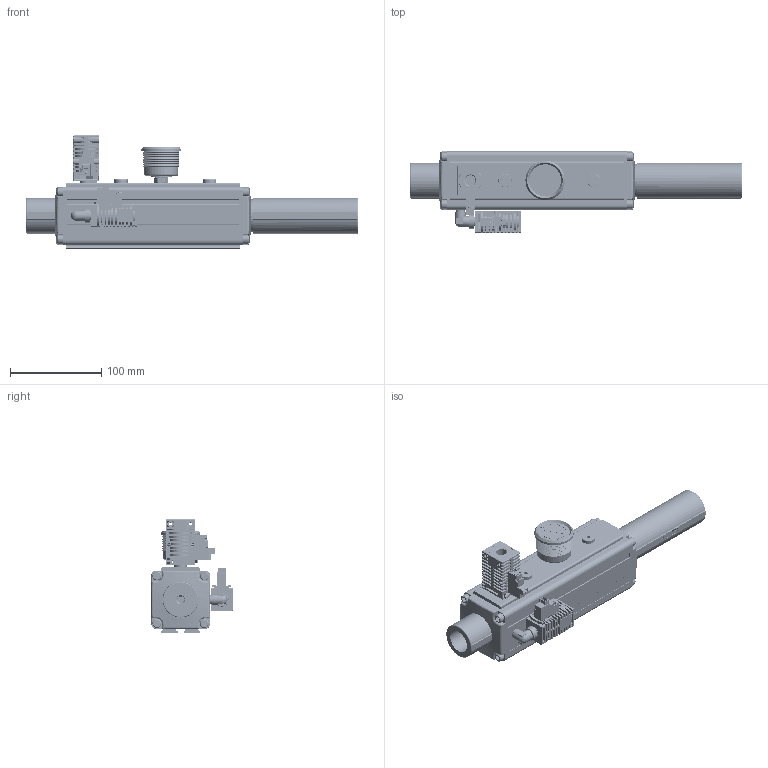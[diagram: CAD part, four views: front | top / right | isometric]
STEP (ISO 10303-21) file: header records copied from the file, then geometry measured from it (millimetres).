
FILE_DESCRIPTION( ( 'Unknown' ), '1' );
FILE_NAME( 'C:/Documents and Settings/Administrator/官帕 拳搁/PM 犁荐沥/PM303X1A-01-A3 R3-CL.stp', 'Unknown', ( 'Unknown' ), ( 'Unknown' ), 'PSStep 10.0', 'Unknown', ' ' );
FILE_SCHEMA( ( 'AUTOMOTIVE_DESIGN { 1 0 10303 214 1 1 1 1 }' ) );
Length unit declared in the file: millimetre
Products named in the file (7): Assem1; 1_0_41; VTS-01_49; VMS14_CON_PT14_10; MS18 CON_1; Vacuum Gauge; Elbow_18_double
Bounding box: 363.6 x 89 x 124 mm (x, y, z)
Volume: 1321435.9 mm3; surface area: 526883.4 mm2
Topology: 12 solids, 116 shells, 6174 faces, 16342 edges, 10648 vertices
Faces by surface type: plane 3846, cylinder 1738, cone 290, torus 158, bspline 102, extrusion 30, sphere 6, revolution 4
Full cylindrical faces by diameter (mm): 0.518 x2, 0.6 x2, 0.623 x2, 0.8 x4, 1 x28, 1.158 x2, 1.2 x8, 1.256 x2, 1.265 x2, 1.8 x4, 2.2 x4, 2.5 x12, 3 x8, 3.1 x4, 3.2 x10, 3.4 x16, 4 x4, 4.134 x16, 4.2 x8, 5 x4, 5.1 x2, 5.6 x2, 5.8 x2, 6 x22, 6.2 x2, 6.35 x2, 6.5 x16, 7 x10, 7.2 x4, 8 x4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
Entity records: 122638 total; most frequent: CARTESIAN_POINT 23207, DIRECTION 15268, ORIENTED_EDGE 15170, EDGE_CURVE 7585, VECTOR 5232, LINE 5217, VERTEX_POINT 5130, AXIS2_PLACEMENT_3D 5017
